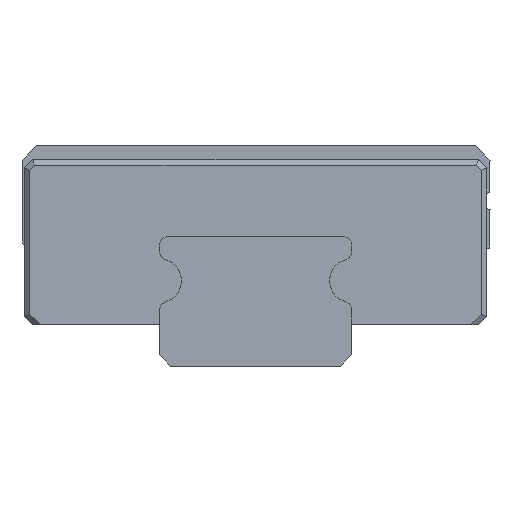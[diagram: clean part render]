
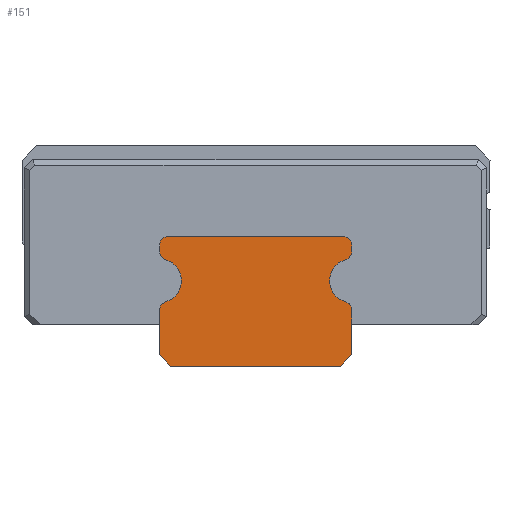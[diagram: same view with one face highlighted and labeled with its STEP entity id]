
A CAD part, front view. The second image highlights one B-rep face of the part: STEP entity #151.
In plain terms, the highlighted planar face has unit normal (0, -1, 0).
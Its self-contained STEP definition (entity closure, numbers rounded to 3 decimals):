
#151 = ADVANCED_FACE( '', ( #306 ), #307, .T. );
#306 = FACE_OUTER_BOUND( '', #558, .T. );
#307 = PLANE( '', #559 );
#558 = EDGE_LOOP( '', ( #958, #959, #960, #961, #962, #963, #964, #965, #966, #967, #968, #969, #970, #971, #972, #973 ) );
#559 = AXIS2_PLACEMENT_3D( '', #974, #975, #976 );
#958 = ORIENTED_EDGE( '', *, *, #1735, .T. );
#959 = ORIENTED_EDGE( '', *, *, #1738, .T. );
#960 = ORIENTED_EDGE( '', *, *, #1740, .T. );
#961 = ORIENTED_EDGE( '', *, *, #1715, .T. );
#962 = ORIENTED_EDGE( '', *, *, #1743, .T. );
#963 = ORIENTED_EDGE( '', *, *, #1746, .T. );
#964 = ORIENTED_EDGE( '', *, *, #1749, .T. );
#965 = ORIENTED_EDGE( '', *, *, #1752, .T. );
#966 = ORIENTED_EDGE( '', *, *, #1755, .T. );
#967 = ORIENTED_EDGE( '', *, *, #1758, .T. );
#968 = ORIENTED_EDGE( '', *, *, #1760, .T. );
#969 = ORIENTED_EDGE( '', *, *, #1731, .T. );
#970 = ORIENTED_EDGE( '', *, *, #1763, .T. );
#971 = ORIENTED_EDGE( '', *, *, #1766, .T. );
#972 = ORIENTED_EDGE( '', *, *, #1769, .T. );
#973 = ORIENTED_EDGE( '', *, *, #1771, .T. );
#974 = CARTESIAN_POINT( '', ( 33.188, 0., 4.155 ) );
#975 = DIRECTION( '', ( 0., -1., 0. ) );
#976 = DIRECTION( '', ( 0., 0., -1. ) );
#1715 = EDGE_CURVE( '', #2034, #2039, #2041, .T. );
#1731 = EDGE_CURVE( '', #2054, #2059, #2061, .T. );
#1735 = EDGE_CURVE( '', #2062, #2067, #2069, .T. );
#1738 = EDGE_CURVE( '', #2067, #2072, #2074, .T. );
#1740 = EDGE_CURVE( '', #2072, #2034, #2076, .T. );
#1743 = EDGE_CURVE( '', #2039, #2079, #2081, .T. );
#1746 = EDGE_CURVE( '', #2079, #2084, #2086, .T. );
#1749 = EDGE_CURVE( '', #2084, #2089, #2091, .T. );
#1752 = EDGE_CURVE( '', #2089, #2094, #2096, .T. );
#1755 = EDGE_CURVE( '', #2094, #2099, #2101, .T. );
#1758 = EDGE_CURVE( '', #2099, #2104, #2106, .T. );
#1760 = EDGE_CURVE( '', #2104, #2054, #2108, .T. );
#1763 = EDGE_CURVE( '', #2059, #2111, #2113, .T. );
#1766 = EDGE_CURVE( '', #2111, #2116, #2118, .T. );
#1769 = EDGE_CURVE( '', #2116, #2121, #2123, .T. );
#1771 = EDGE_CURVE( '', #2121, #2062, #2125, .T. );
#2034 = VERTEX_POINT( '', #2524 );
#2039 = VERTEX_POINT( '', #2531 );
#2041 = LINE( '', #2534, #2535 );
#2054 = VERTEX_POINT( '', #2548 );
#2059 = VERTEX_POINT( '', #2555 );
#2061 = LINE( '', #2558, #2559 );
#2062 = VERTEX_POINT( '', #2560 );
#2067 = VERTEX_POINT( '', #2566 );
#2069 = CIRCLE( '', #2569, 0.3 );
#2072 = VERTEX_POINT( '', #2573 );
#2074 = LINE( '', #2576, #2577 );
#2076 = CIRCLE( '', #2579, 0.3 );
#2079 = VERTEX_POINT( '', #2582 );
#2081 = CIRCLE( '', #2585, 0.3 );
#2084 = VERTEX_POINT( '', #2589 );
#2086 = LINE( '', #2592, #2593 );
#2089 = VERTEX_POINT( '', #2596 );
#2091 = CIRCLE( '', #2599, 0.3 );
#2094 = VERTEX_POINT( '', #2602 );
#2096 = CIRCLE( '', #2605, 0.797 );
#2099 = VERTEX_POINT( '', #2608 );
#2101 = CIRCLE( '', #2613, 0.3 );
#2104 = VERTEX_POINT( '', #2617 );
#2106 = LINE( '', #2620, #2621 );
#2108 = LINE( '', #2624, #2625 );
#2111 = VERTEX_POINT( '', #2629 );
#2113 = LINE( '', #2632, #2633 );
#2116 = VERTEX_POINT( '', #2637 );
#2118 = LINE( '', #2642, #2643 );
#2121 = VERTEX_POINT( '', #2646 );
#2123 = CIRCLE( '', #2649, 0.3 );
#2125 = CIRCLE( '', #2651, 0.797 );
#2524 = CARTESIAN_POINT( '', ( 33.188, 0., 4.7 ) );
#2531 = CARTESIAN_POINT( '', ( 26.813, 0., 4.7 ) );
#2534 = CARTESIAN_POINT( '', ( 33.188, 0., 4.7 ) );
#2535 = VECTOR( '', #3183, 1. );
#2548 = CARTESIAN_POINT( '', ( 26.913, 0., 0. ) );
#2555 = CARTESIAN_POINT( '', ( 33.088, 0., 0. ) );
#2558 = CARTESIAN_POINT( '', ( 26.913, 0., 0. ) );
#2559 = VECTOR( '', #3223, 1. );
#2560 = CARTESIAN_POINT( '', ( 33.27, 0., 3.866 ) );
#2566 = CARTESIAN_POINT( '', ( 33.488, 0., 4.155 ) );
#2569 = AXIS2_PLACEMENT_3D( '', #3229, #3230, #3231 );
#2573 = CARTESIAN_POINT( '', ( 33.488, 0., 4.4 ) );
#2576 = CARTESIAN_POINT( '', ( 33.488, 0., 4.155 ) );
#2577 = VECTOR( '', #3234, 1. );
#2579 = AXIS2_PLACEMENT_3D( '', #3238, #3239, #3240 );
#2582 = CARTESIAN_POINT( '', ( 26.513, 0., 4.4 ) );
#2585 = AXIS2_PLACEMENT_3D( '', #3245, #3246, #3247 );
#2589 = CARTESIAN_POINT( '', ( 26.513, 0., 4.155 ) );
#2592 = CARTESIAN_POINT( '', ( 26.513, 0., 4.4 ) );
#2593 = VECTOR( '', #3250, 1. );
#2596 = CARTESIAN_POINT( '', ( 26.73, 0., 3.866 ) );
#2599 = AXIS2_PLACEMENT_3D( '', #3255, #3256, #3257 );
#2602 = CARTESIAN_POINT( '', ( 26.73, 0., 2.334 ) );
#2605 = AXIS2_PLACEMENT_3D( '', #3262, #3263, #3264 );
#2608 = CARTESIAN_POINT( '', ( 26.513, 0., 2.045 ) );
#2613 = AXIS2_PLACEMENT_3D( '', #3268, #3269, #3270 );
#2617 = CARTESIAN_POINT( '', ( 26.5, 0., 0.412 ) );
#2620 = CARTESIAN_POINT( '', ( 26.5, 0., 2.045 ) );
#2621 = VECTOR( '', #3273, 1. );
#2624 = CARTESIAN_POINT( '', ( 26.513, 0., 0.4 ) );
#2625 = VECTOR( '', #3275, 1. );
#2629 = CARTESIAN_POINT( '', ( 33.5, 0., 0.412 ) );
#2632 = CARTESIAN_POINT( '', ( 33.088, 0., 0. ) );
#2633 = VECTOR( '', #3278, 1. );
#2637 = CARTESIAN_POINT( '', ( 33.488, 0., 2.045 ) );
#2642 = CARTESIAN_POINT( '', ( 33.5, 0., 0.4 ) );
#2643 = VECTOR( '', #3280, 1. );
#2646 = CARTESIAN_POINT( '', ( 33.27, 0., 2.334 ) );
#2649 = AXIS2_PLACEMENT_3D( '', #3285, #3286, #3287 );
#2651 = AXIS2_PLACEMENT_3D( '', #3291, #3292, #3293 );
#3183 = DIRECTION( '', ( -1., 0., 0. ) );
#3223 = DIRECTION( '', ( 1., 0., 0. ) );
#3229 = CARTESIAN_POINT( '', ( 33.188, 0., 4.155 ) );
#3230 = DIRECTION( '', ( 0., -1., 0. ) );
#3231 = DIRECTION( '', ( 1., 0., 0. ) );
#3234 = DIRECTION( '', ( 0., 0., 1. ) );
#3238 = CARTESIAN_POINT( '', ( 33.188, 0., 4.4 ) );
#3239 = DIRECTION( '', ( 0., -1., 0. ) );
#3240 = DIRECTION( '', ( 1., 0., 0. ) );
#3245 = CARTESIAN_POINT( '', ( 26.813, 0., 4.4 ) );
#3246 = DIRECTION( '', ( 0., -1., 0. ) );
#3247 = DIRECTION( '', ( 1., 0., 0. ) );
#3250 = DIRECTION( '', ( 0., 0., -1. ) );
#3255 = CARTESIAN_POINT( '', ( 26.813, 0., 4.155 ) );
#3256 = DIRECTION( '', ( 0., -1., 0. ) );
#3257 = DIRECTION( '', ( 1., 0., 0. ) );
#3262 = CARTESIAN_POINT( '', ( 26.513, 0., 3.1 ) );
#3263 = DIRECTION( '', ( 0., 1., 0. ) );
#3264 = DIRECTION( '', ( 1., 0., 0. ) );
#3268 = CARTESIAN_POINT( '', ( 26.813, 0., 2.045 ) );
#3269 = DIRECTION( '', ( 0., -1., 0. ) );
#3270 = DIRECTION( '', ( 1., 0., 0. ) );
#3273 = DIRECTION( '', ( 0., 0., -1. ) );
#3275 = DIRECTION( '', ( 0.707, 0., -0.707 ) );
#3278 = DIRECTION( '', ( 0.707, 0., 0.707 ) );
#3280 = DIRECTION( '', ( 0., 0., 1. ) );
#3285 = CARTESIAN_POINT( '', ( 33.188, 0., 2.045 ) );
#3286 = DIRECTION( '', ( 0., -1., 0. ) );
#3287 = DIRECTION( '', ( 1., 0., 0. ) );
#3291 = CARTESIAN_POINT( '', ( 33.488, 0., 3.1 ) );
#3292 = DIRECTION( '', ( 0., 1., 0. ) );
#3293 = DIRECTION( '', ( 1., 0., 0. ) );
